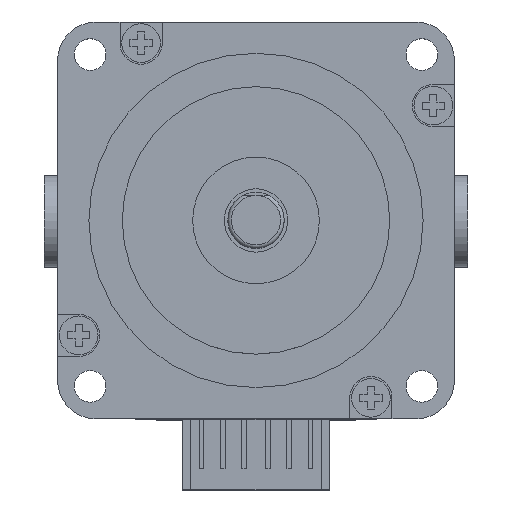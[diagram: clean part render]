
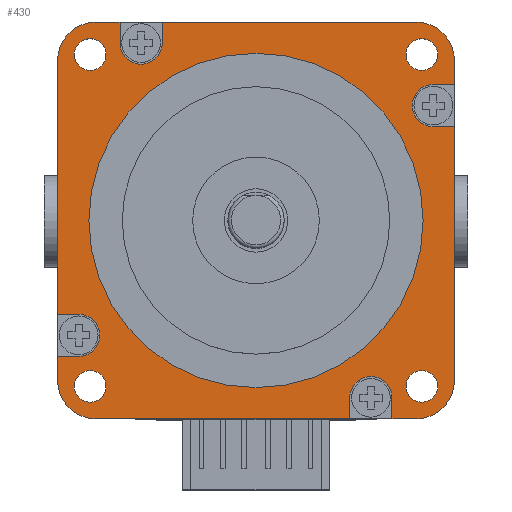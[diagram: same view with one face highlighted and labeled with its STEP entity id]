
A CAD part, top view. The second image highlights one B-rep face of the part: STEP entity #430.
In plain terms, the highlighted planar face has unit normal (0, 0, 1).
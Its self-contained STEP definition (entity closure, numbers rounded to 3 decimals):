
#430=ADVANCED_FACE('',(#1076,#1077,#1078,#1079,#1080,#1081),#706,.T.);
#706=PLANE('',#5152);
#933=CIRCLE('',#5139,5.5);
#934=CIRCLE('',#5140,3.);
#935=CIRCLE('',#5141,5.5);
#936=CIRCLE('',#5142,3.);
#937=CIRCLE('',#5143,5.5);
#938=CIRCLE('',#5144,3.);
#939=CIRCLE('',#5145,5.5);
#940=CIRCLE('',#5146,3.);
#941=CIRCLE('',#5147,23.75);
#942=CIRCLE('',#5148,2.25);
#943=CIRCLE('',#5149,2.25);
#944=CIRCLE('',#5150,2.25);
#945=CIRCLE('',#5151,2.25);
#1076=FACE_BOUND('',#1190,.T.);
#1077=FACE_BOUND('',#1191,.T.);
#1078=FACE_BOUND('',#1192,.T.);
#1079=FACE_BOUND('',#1193,.T.);
#1080=FACE_BOUND('',#1194,.T.);
#1081=FACE_BOUND('',#1195,.T.);
#1190=EDGE_LOOP('',(#1692,#1693,#1694,#1695,#1696,#1697,#1698,#1699,#1700,
#1701,#1702,#1703,#1704,#1705,#1706,#1707,#1708,#1709,#1710,#1711,#1712,
#1713,#1714,#1715));
#1191=EDGE_LOOP('',(#1716));
#1192=EDGE_LOOP('',(#1717));
#1193=EDGE_LOOP('',(#1718));
#1194=EDGE_LOOP('',(#1719));
#1195=EDGE_LOOP('',(#1720));
#1692=ORIENTED_EDGE('',*,*,#3542,.T.);
#1693=ORIENTED_EDGE('',*,*,#3543,.T.);
#1694=ORIENTED_EDGE('',*,*,#3544,.T.);
#1695=ORIENTED_EDGE('',*,*,#3545,.F.);
#1696=ORIENTED_EDGE('',*,*,#3546,.F.);
#1697=ORIENTED_EDGE('',*,*,#3547,.F.);
#1698=ORIENTED_EDGE('',*,*,#3548,.T.);
#1699=ORIENTED_EDGE('',*,*,#3549,.T.);
#1700=ORIENTED_EDGE('',*,*,#3550,.T.);
#1701=ORIENTED_EDGE('',*,*,#3551,.F.);
#1702=ORIENTED_EDGE('',*,*,#3552,.F.);
#1703=ORIENTED_EDGE('',*,*,#3553,.F.);
#1704=ORIENTED_EDGE('',*,*,#3554,.T.);
#1705=ORIENTED_EDGE('',*,*,#3555,.T.);
#1706=ORIENTED_EDGE('',*,*,#3538,.T.);
#1707=ORIENTED_EDGE('',*,*,#3556,.T.);
#1708=ORIENTED_EDGE('',*,*,#3557,.T.);
#1709=ORIENTED_EDGE('',*,*,#3558,.T.);
#1710=ORIENTED_EDGE('',*,*,#3534,.T.);
#1711=ORIENTED_EDGE('',*,*,#3559,.T.);
#1712=ORIENTED_EDGE('',*,*,#3560,.T.);
#1713=ORIENTED_EDGE('',*,*,#3561,.F.);
#1714=ORIENTED_EDGE('',*,*,#3562,.F.);
#1715=ORIENTED_EDGE('',*,*,#3563,.F.);
#1716=ORIENTED_EDGE('',*,*,#3564,.T.);
#1717=ORIENTED_EDGE('',*,*,#3565,.F.);
#1718=ORIENTED_EDGE('',*,*,#3566,.F.);
#1719=ORIENTED_EDGE('',*,*,#3567,.F.);
#1720=ORIENTED_EDGE('',*,*,#3568,.F.);
#3058=VERTEX_POINT('',#7313);
#3059=VERTEX_POINT('',#7315);
#3062=VERTEX_POINT('',#7321);
#3063=VERTEX_POINT('',#7323);
#3066=VERTEX_POINT('',#7331);
#3067=VERTEX_POINT('',#7332);
#3068=VERTEX_POINT('',#7334);
#3069=VERTEX_POINT('',#7336);
#3070=VERTEX_POINT('',#7338);
#3071=VERTEX_POINT('',#7340);
#3072=VERTEX_POINT('',#7342);
#3073=VERTEX_POINT('',#7344);
#3074=VERTEX_POINT('',#7346);
#3075=VERTEX_POINT('',#7348);
#3076=VERTEX_POINT('',#7350);
#3077=VERTEX_POINT('',#7352);
#3078=VERTEX_POINT('',#7354);
#3079=VERTEX_POINT('',#7356);
#3080=VERTEX_POINT('',#7359);
#3081=VERTEX_POINT('',#7361);
#3082=VERTEX_POINT('',#7364);
#3083=VERTEX_POINT('',#7366);
#3084=VERTEX_POINT('',#7368);
#3085=VERTEX_POINT('',#7370);
#3086=VERTEX_POINT('',#7373);
#3087=VERTEX_POINT('',#7375);
#3088=VERTEX_POINT('',#7377);
#3089=VERTEX_POINT('',#7379);
#3090=VERTEX_POINT('',#7381);
#3534=EDGE_CURVE('',#3059,#3058,#4174,.T.);
#3538=EDGE_CURVE('',#3063,#3062,#4178,.T.);
#3542=EDGE_CURVE('',#3066,#3067,#4182,.T.);
#3543=EDGE_CURVE('',#3067,#3068,#933,.T.);
#3544=EDGE_CURVE('',#3068,#3069,#4183,.T.);
#3545=EDGE_CURVE('',#3070,#3069,#4184,.T.);
#3546=EDGE_CURVE('',#3071,#3070,#934,.T.);
#3547=EDGE_CURVE('',#3072,#3071,#4185,.T.);
#3548=EDGE_CURVE('',#3072,#3073,#4186,.T.);
#3549=EDGE_CURVE('',#3073,#3074,#935,.T.);
#3550=EDGE_CURVE('',#3074,#3075,#4187,.T.);
#3551=EDGE_CURVE('',#3076,#3075,#4188,.T.);
#3552=EDGE_CURVE('',#3077,#3076,#936,.T.);
#3553=EDGE_CURVE('',#3078,#3077,#4189,.T.);
#3554=EDGE_CURVE('',#3078,#3079,#4190,.T.);
#3555=EDGE_CURVE('',#3079,#3063,#937,.T.);
#3556=EDGE_CURVE('',#3062,#3080,#4191,.T.);
#3557=EDGE_CURVE('',#3080,#3081,#938,.T.);
#3558=EDGE_CURVE('',#3081,#3059,#4192,.T.);
#3559=EDGE_CURVE('',#3058,#3082,#939,.T.);
#3560=EDGE_CURVE('',#3082,#3083,#4193,.T.);
#3561=EDGE_CURVE('',#3084,#3083,#4194,.T.);
#3562=EDGE_CURVE('',#3085,#3084,#940,.T.);
#3563=EDGE_CURVE('',#3066,#3085,#4195,.T.);
#3564=EDGE_CURVE('',#3086,#3086,#941,.T.);
#3565=EDGE_CURVE('',#3087,#3087,#942,.T.);
#3566=EDGE_CURVE('',#3088,#3088,#943,.T.);
#3567=EDGE_CURVE('',#3089,#3089,#944,.T.);
#3568=EDGE_CURVE('',#3090,#3090,#945,.T.);
#4174=LINE('',#7314,#4689);
#4178=LINE('',#7322,#4693);
#4182=LINE('',#7330,#4697);
#4183=LINE('',#7335,#4698);
#4184=LINE('',#7337,#4699);
#4185=LINE('',#7341,#4700);
#4186=LINE('',#7343,#4701);
#4187=LINE('',#7347,#4702);
#4188=LINE('',#7349,#4703);
#4189=LINE('',#7353,#4704);
#4190=LINE('',#7355,#4705);
#4191=LINE('',#7358,#4706);
#4192=LINE('',#7362,#4707);
#4193=LINE('',#7365,#4708);
#4194=LINE('',#7367,#4709);
#4195=LINE('',#7371,#4710);
#4689=VECTOR('',#5783,1.);
#4693=VECTOR('',#5787,1.);
#4697=VECTOR('',#5793,1.);
#4698=VECTOR('',#5796,1.);
#4699=VECTOR('',#5797,1.);
#4700=VECTOR('',#5800,1.);
#4701=VECTOR('',#5801,1.);
#4702=VECTOR('',#5804,1.);
#4703=VECTOR('',#5805,1.);
#4704=VECTOR('',#5808,1.);
#4705=VECTOR('',#5809,1.);
#4706=VECTOR('',#5812,1.);
#4707=VECTOR('',#5815,1.);
#4708=VECTOR('',#5818,1.);
#4709=VECTOR('',#5819,1.);
#4710=VECTOR('',#5822,1.);
#5139=AXIS2_PLACEMENT_3D('',#7333,#5794,#5795);
#5140=AXIS2_PLACEMENT_3D('',#7339,#5798,#5799);
#5141=AXIS2_PLACEMENT_3D('',#7345,#5802,#5803);
#5142=AXIS2_PLACEMENT_3D('',#7351,#5806,#5807);
#5143=AXIS2_PLACEMENT_3D('',#7357,#5810,#5811);
#5144=AXIS2_PLACEMENT_3D('',#7360,#5813,#5814);
#5145=AXIS2_PLACEMENT_3D('',#7363,#5816,#5817);
#5146=AXIS2_PLACEMENT_3D('',#7369,#5820,#5821);
#5147=AXIS2_PLACEMENT_3D('',#7372,#5823,#5824);
#5148=AXIS2_PLACEMENT_3D('',#7374,#5825,#5826);
#5149=AXIS2_PLACEMENT_3D('',#7376,#5827,#5828);
#5150=AXIS2_PLACEMENT_3D('',#7378,#5829,#5830);
#5151=AXIS2_PLACEMENT_3D('',#7380,#5831,#5832);
#5152=AXIS2_PLACEMENT_3D('',#7382,#5833,#5834);
#5783=DIRECTION('',(-1.,0.,0.));
#5787=DIRECTION('',(-1.,0.,0.));
#5793=DIRECTION('',(0.,-1.,0.));
#5794=DIRECTION('',(0.,0.,1.));
#5795=DIRECTION('',(1.,0.,0.));
#5796=DIRECTION('',(1.,0.,0.));
#5797=DIRECTION('',(0.,-1.,0.));
#5798=DIRECTION('',(0.,0.,1.));
#5799=DIRECTION('',(-1.,0.,0.));
#5800=DIRECTION('',(0.,1.,0.));
#5801=DIRECTION('',(1.,0.,0.));
#5802=DIRECTION('',(0.,0.,1.));
#5803=DIRECTION('',(1.,0.,0.));
#5804=DIRECTION('',(0.,1.,0.));
#5805=DIRECTION('',(1.,0.,0.));
#5806=DIRECTION('',(0.,0.,1.));
#5807=DIRECTION('',(0.,-1.,0.));
#5808=DIRECTION('',(-1.,0.,0.));
#5809=DIRECTION('',(0.,1.,0.));
#5810=DIRECTION('',(0.,0.,1.));
#5811=DIRECTION('',(1.,0.,0.));
#5812=DIRECTION('',(0.,-1.,0.));
#5813=DIRECTION('',(0.,0.,-1.));
#5814=DIRECTION('',(1.,0.,0.));
#5815=DIRECTION('',(0.,1.,0.));
#5816=DIRECTION('',(0.,0.,1.));
#5817=DIRECTION('',(1.,0.,0.));
#5818=DIRECTION('',(0.,-1.,0.));
#5819=DIRECTION('',(-1.,0.,0.));
#5820=DIRECTION('',(0.,0.,1.));
#5821=DIRECTION('',(0.,1.,0.));
#5822=DIRECTION('',(1.,0.,0.));
#5823=DIRECTION('',(0.,0.,-1.));
#5824=DIRECTION('',(1.,0.,0.));
#5825=DIRECTION('',(0.,0.,1.));
#5826=DIRECTION('',(1.,0.,0.));
#5827=DIRECTION('',(0.,0.,1.));
#5828=DIRECTION('',(1.,0.,0.));
#5829=DIRECTION('',(0.,0.,1.));
#5830=DIRECTION('',(1.,0.,0.));
#5831=DIRECTION('',(0.,0.,1.));
#5832=DIRECTION('',(1.,0.,0.));
#5833=DIRECTION('',(0.,0.,1.));
#5834=DIRECTION('',(1.,0.,0.));
#7313=CARTESIAN_POINT('',(-22.7,28.2,0.));
#7314=CARTESIAN_POINT('',(28.2,28.2,0.));
#7315=CARTESIAN_POINT('',(-19.324,28.2,0.));
#7321=CARTESIAN_POINT('',(-13.324,28.2,0.));
#7322=CARTESIAN_POINT('',(28.2,28.2,0.));
#7323=CARTESIAN_POINT('',(22.7,28.2,0.));
#7330=CARTESIAN_POINT('',(-28.2,28.2,0.));
#7331=CARTESIAN_POINT('',(-28.2,-19.324,0.));
#7332=CARTESIAN_POINT('',(-28.2,-22.7,0.));
#7333=CARTESIAN_POINT('',(-22.7,-22.7,0.));
#7334=CARTESIAN_POINT('',(-22.7,-28.2,0.));
#7335=CARTESIAN_POINT('',(-28.2,-28.2,0.));
#7336=CARTESIAN_POINT('',(13.324,-28.2,0.));
#7337=CARTESIAN_POINT('',(13.324,-25.2,0.));
#7338=CARTESIAN_POINT('',(13.324,-25.2,0.));
#7339=CARTESIAN_POINT('',(16.324,-25.2,0.));
#7340=CARTESIAN_POINT('',(19.324,-25.2,0.));
#7341=CARTESIAN_POINT('',(19.324,-28.2,0.));
#7342=CARTESIAN_POINT('',(19.324,-28.2,0.));
#7343=CARTESIAN_POINT('',(-28.2,-28.2,0.));
#7344=CARTESIAN_POINT('',(22.7,-28.2,0.));
#7345=CARTESIAN_POINT('',(22.7,-22.7,0.));
#7346=CARTESIAN_POINT('',(28.2,-22.7,0.));
#7347=CARTESIAN_POINT('',(28.2,-28.2,0.));
#7348=CARTESIAN_POINT('',(28.2,13.324,0.));
#7349=CARTESIAN_POINT('',(25.2,13.324,0.));
#7350=CARTESIAN_POINT('',(25.2,13.324,0.));
#7351=CARTESIAN_POINT('',(25.2,16.324,0.));
#7352=CARTESIAN_POINT('',(25.2,19.324,0.));
#7353=CARTESIAN_POINT('',(28.2,19.324,0.));
#7354=CARTESIAN_POINT('',(28.2,19.324,0.));
#7355=CARTESIAN_POINT('',(28.2,-28.2,0.));
#7356=CARTESIAN_POINT('',(28.2,22.7,0.));
#7357=CARTESIAN_POINT('',(22.7,22.7,0.));
#7358=CARTESIAN_POINT('',(-13.324,28.2,0.));
#7359=CARTESIAN_POINT('',(-13.324,25.2,0.));
#7360=CARTESIAN_POINT('',(-16.324,25.2,0.));
#7361=CARTESIAN_POINT('',(-19.324,25.2,0.));
#7362=CARTESIAN_POINT('',(-19.324,25.2,0.));
#7363=CARTESIAN_POINT('',(-22.7,22.7,0.));
#7364=CARTESIAN_POINT('',(-28.2,22.7,0.));
#7365=CARTESIAN_POINT('',(-28.2,28.2,0.));
#7366=CARTESIAN_POINT('',(-28.2,-13.324,0.));
#7367=CARTESIAN_POINT('',(-25.2,-13.324,0.));
#7368=CARTESIAN_POINT('',(-25.2,-13.324,0.));
#7369=CARTESIAN_POINT('',(-25.2,-16.324,0.));
#7370=CARTESIAN_POINT('',(-25.2,-19.324,0.));
#7371=CARTESIAN_POINT('',(-28.2,-19.324,0.));
#7372=CARTESIAN_POINT('',(0.,0.,0.));
#7373=CARTESIAN_POINT('',(23.75,0.,0.));
#7374=CARTESIAN_POINT('',(23.57,-23.57,0.));
#7375=CARTESIAN_POINT('',(25.82,-23.57,0.));
#7376=CARTESIAN_POINT('',(23.57,23.57,0.));
#7377=CARTESIAN_POINT('',(25.82,23.57,0.));
#7378=CARTESIAN_POINT('',(-23.57,23.57,0.));
#7379=CARTESIAN_POINT('',(-21.32,23.57,0.));
#7380=CARTESIAN_POINT('',(-23.57,-23.57,0.));
#7381=CARTESIAN_POINT('',(-21.32,-23.57,0.));
#7382=CARTESIAN_POINT('',(28.2,-28.2,0.));
